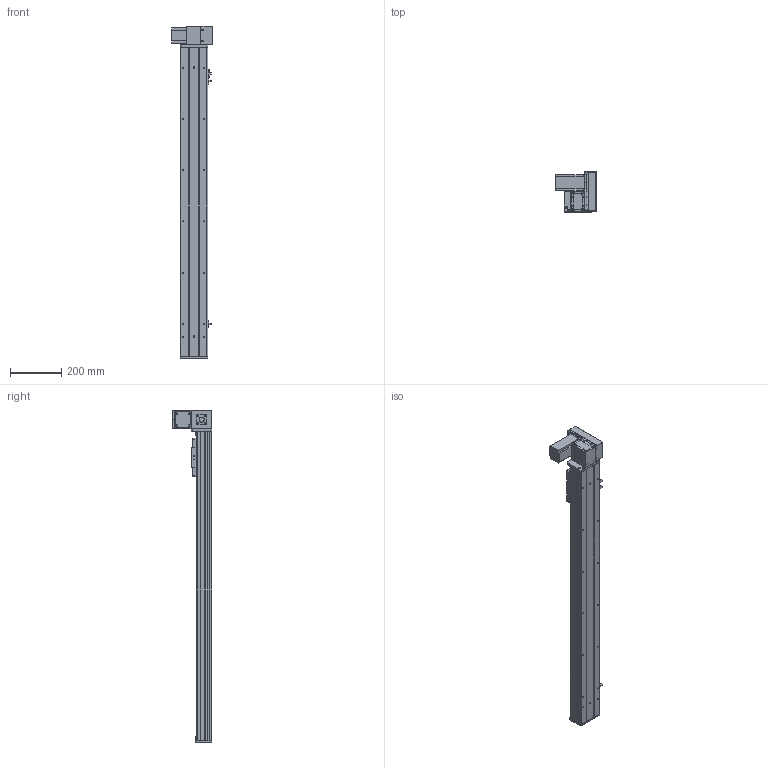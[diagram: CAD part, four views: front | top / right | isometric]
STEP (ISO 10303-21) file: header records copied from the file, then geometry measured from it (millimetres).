
FILE_DESCRIPTION (( 'STEP AP203' ), '1' );
FILE_NAME ('Y10CB-D90-S950-UR-P400W.STEP', '2020-02-16T03:30:15', ( '微软用户' ), ( '微软中国' ), 'SwSTEP 2.0', 'SolidWorks 2017', '' );
FILE_SCHEMA (( 'CONFIG_CONTROL_DESIGN' ));
Length unit declared in the file: millimetre
Products named in the file (18): Y10B--々湍喘謫眊--666; 0B-埴倛裔啣; Y10B-耜蚾蟀諉啣----; 10CB-詩湍-; 00B-俋欶BM--; Y10CB- 掛极耜裔啣-毀---; 0CB-雄赽釱---; Y10CB-D90-S950-UR-P400W; Y10C---詩湍揤啣; 0Cb-俋欶---; 10CB9-掛极; Y10B-々湍喘謫眊楊擘啣--; 10CB-耜裔; 0B-萇儂楊擘啣; Y135C-陔俋离換覜結え-; san松下电机400不带刹车----; Y100-135俋离換覜ん--; 0B-源倛裔啣
Assembly tree (21 placements, depth 2):
  Y10CB-D90-S950-UR-P400W
    0CB-雄赽釱---
    0Cb-俋欶---
    Y10B-々湍喘謫眊楊擘啣--
    0B-萇儂楊擘啣
    san松下电机400不带刹车----
    0B-源倛裔啣
    0B-埴倛裔啣
    10CB-詩湍-
    Y10CB- 掛极耜裔啣-毀---  x2
    Y10C---詩湍揤啣  x2
    10CB9-掛极
    10CB-耜裔
    Y135C-陔俋离換覜結え-
    Y100-135俋离換覜ん--  x3
    Y10B--々湍喘謫眊--666
    Y10B-耜蚾蟀諉啣----
    00B-俋欶BM--
Bounding box: 157 x 155.5 x 1296 mm (x, y, z)
Volume: 3048525.2 mm3; surface area: 1367613.1 mm2
Topology: 21 solids, 21 shells, 990 faces, 2643 edges, 1730 vertices
Faces by surface type: cylinder 489, plane 477, cone 24
Entity records: 30912 total; most frequent: CARTESIAN_POINT 5469, DIRECTION 4998, ORIENTED_EDGE 4756, EDGE_CURVE 2378, AXIS2_PLACEMENT_3D 1789, VERTEX_POINT 1556, VECTOR 1420, LINE 1420
